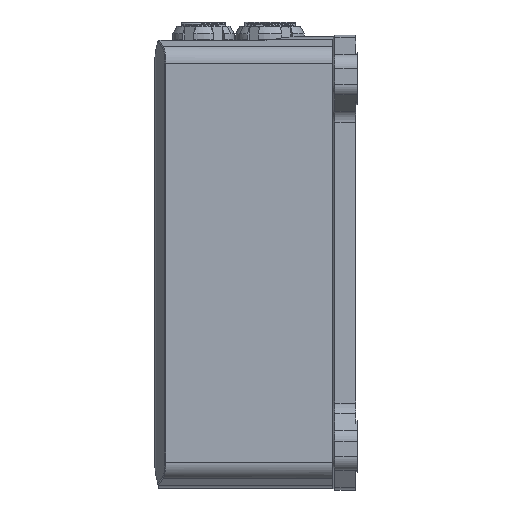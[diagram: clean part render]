
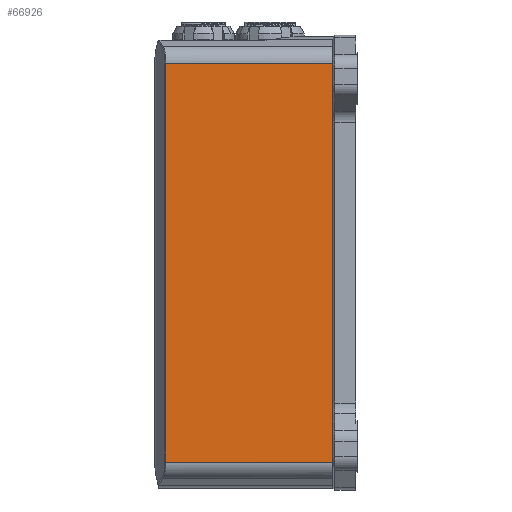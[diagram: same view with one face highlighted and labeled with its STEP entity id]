
A CAD part, left-side view. The second image highlights one B-rep face of the part: STEP entity #66926.
In plain terms, the highlighted planar face has unit normal (-1, 0, 0).
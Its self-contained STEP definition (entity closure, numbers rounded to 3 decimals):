
#3102 = VECTOR ( 'NONE', #35346, 1000. ) ;
#6096 = DIRECTION ( 'NONE',  ( 0., 0., 1. ) ) ;
#7743 = DIRECTION ( 'NONE',  ( 0., 1., 0. ) ) ;
#12749 = CARTESIAN_POINT ( 'NONE',  ( -41., 7., 35.004 ) ) ;
#13265 = ORIENTED_EDGE ( 'NONE', *, *, #61078, .F. ) ;
#18650 = CARTESIAN_POINT ( 'NONE',  ( -41., 58., 35.004 ) ) ;
#19033 = DIRECTION ( 'NONE',  ( 0., 0., 1. ) ) ;
#19760 = VECTOR ( 'NONE', #6096, 1000. ) ;
#25633 = EDGE_CURVE ( 'NONE', #209437, #148270, #47233, .T. ) ;
#33140 = AXIS2_PLACEMENT_3D ( 'NONE', #36245, #152139, #52827 ) ;
#34640 = VECTOR ( 'NONE', #7743, 1000. ) ;
#35346 = DIRECTION ( 'NONE',  ( 0., -1., 0. ) ) ;
#36245 = CARTESIAN_POINT ( 'NONE',  ( -41., 58., -79.004 ) ) ;
#47233 = LINE ( 'NONE', #18650, #3102 ) ;
#52827 = DIRECTION ( 'NONE',  ( 0., 0., -1. ) ) ;
#61078 = EDGE_CURVE ( 'NONE', #215036, #209437, #146816, .T. ) ;
#66926 = ADVANCED_FACE ( 'NONE', ( #173018 ), #184711, .F. ) ;
#84989 = CARTESIAN_POINT ( 'NONE',  ( -41., 7., 25. ) ) ;
#93858 = VECTOR ( 'NONE', #19033, 1000. ) ;
#94450 = ORIENTED_EDGE ( 'NONE', *, *, #143701, .F. ) ;
#106156 = CARTESIAN_POINT ( 'NONE',  ( -41., 54.8, -79.004 ) ) ;
#106868 = CARTESIAN_POINT ( 'NONE',  ( -41., 7., -79.004 ) ) ;
#115897 = CARTESIAN_POINT ( 'NONE',  ( -41., 54.8, -79.004 ) ) ;
#136549 = EDGE_LOOP ( 'NONE', ( #13265, #94450, #153687, #149040 ) ) ;
#137882 = LINE ( 'NONE', #84989, #93858 ) ;
#143701 = EDGE_CURVE ( 'NONE', #207258, #215036, #210813, .T. ) ;
#146816 = LINE ( 'NONE', #106156, #19760 ) ;
#147885 = EDGE_CURVE ( 'NONE', #207258, #148270, #137882, .T. ) ;
#148270 = VERTEX_POINT ( 'NONE', #12749 ) ;
#149040 = ORIENTED_EDGE ( 'NONE', *, *, #25633, .F. ) ;
#152139 = DIRECTION ( 'NONE',  ( 1., 0., 0. ) ) ;
#153687 = ORIENTED_EDGE ( 'NONE', *, *, #147885, .T. ) ;
#173018 = FACE_OUTER_BOUND ( 'NONE', #136549, .T. ) ;
#184568 = CARTESIAN_POINT ( 'NONE',  ( -41., 54.8, 35.004 ) ) ;
#184711 = PLANE ( 'NONE',  #33140 ) ;
#189635 = CARTESIAN_POINT ( 'NONE',  ( -41., 58., -79.004 ) ) ;
#207258 = VERTEX_POINT ( 'NONE', #106868 ) ;
#209437 = VERTEX_POINT ( 'NONE', #184568 ) ;
#210813 = LINE ( 'NONE', #189635, #34640 ) ;
#215036 = VERTEX_POINT ( 'NONE', #115897 ) ;
